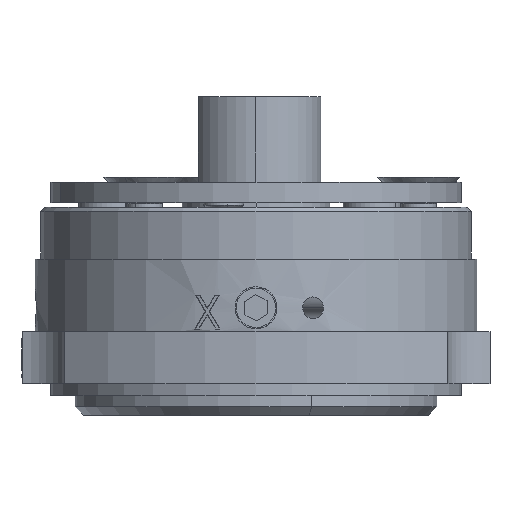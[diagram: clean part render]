
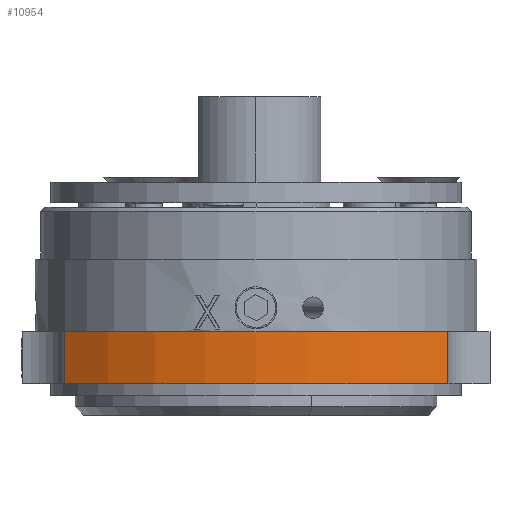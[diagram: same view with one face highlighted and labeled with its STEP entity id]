
A CAD part, front view. The second image highlights one B-rep face of the part: STEP entity #10954.
In plain terms, the highlighted cylindrical face has radius 19.05 mm (diameter 38.1 mm), a partial arc.
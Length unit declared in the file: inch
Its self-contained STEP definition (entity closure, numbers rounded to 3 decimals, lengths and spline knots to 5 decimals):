
#1399 = VERTEX_POINT ( 'NONE', #28066 ) ;
#1751 = DIRECTION ( 'NONE',  ( 0., 0., 1. ) ) ;
#1829 = ORIENTED_EDGE ( 'NONE', *, *, #8050, .F. ) ;
#4719 = ORIENTED_EDGE ( 'NONE', *, *, #31666, .F. ) ;
#4970 = VERTEX_POINT ( 'NONE', #31738 ) ;
#6599 = EDGE_CURVE ( 'NONE', #4970, #1399, #28316, .T. ) ;
#7147 = FACE_OUTER_BOUND ( 'NONE', #23463, .T. ) ;
#7438 = DIRECTION ( 'NONE',  ( 0., 0., -1. ) ) ;
#8050 = EDGE_CURVE ( 'NONE', #32158, #4970, #18378, .T. ) ;
#9006 = VERTEX_POINT ( 'NONE', #27922 ) ;
#9437 = EDGE_CURVE ( 'NONE', #32158, #9006, #32068, .T. ) ;
#10954 = ADVANCED_FACE ( 'NONE', ( #7147 ), #28191, .T. ) ;
#10973 = DIRECTION ( 'NONE',  ( 0., 0., -1. ) ) ;
#11085 = VECTOR ( 'NONE', #13059, 39.37008 ) ;
#13059 = DIRECTION ( 'NONE',  ( 0., 0., -1. ) ) ;
#15459 = CARTESIAN_POINT ( 'NONE',  ( -0.6192, -0.24593, 0.03982 ) ) ;
#18378 = LINE ( 'NONE', #34914, #11085 ) ;
#19738 = ORIENTED_EDGE ( 'NONE', *, *, #9437, .T. ) ;
#20150 = AXIS2_PLACEMENT_3D ( 'NONE', #23891, #7438, #26638 ) ;
#21097 = CARTESIAN_POINT ( 'NONE',  ( -1.0794, -0.83814, 0.11732 ) ) ;
#21157 = VECTOR ( 'NONE', #24104, 39.37008 ) ;
#23463 = EDGE_LOOP ( 'NONE', ( #4719, #25239, #1829, #19738 ) ) ;
#23682 = AXIS2_PLACEMENT_3D ( 'NONE', #15459, #1751, #34784 ) ;
#23891 = CARTESIAN_POINT ( 'NONE',  ( -0.6192, -0.24593, 0.06982 ) ) ;
#24104 = DIRECTION ( 'NONE',  ( 0., 0., 1. ) ) ;
#25239 = ORIENTED_EDGE ( 'NONE', *, *, #6599, .F. ) ;
#26638 = DIRECTION ( 'NONE',  ( -1., 0., 0. ) ) ;
#27405 = CARTESIAN_POINT ( 'NONE',  ( -0.6192, -0.24593, 0.19482 ) ) ;
#27922 = CARTESIAN_POINT ( 'NONE',  ( -1.0794, -0.83814, 0.19482 ) ) ;
#28066 = CARTESIAN_POINT ( 'NONE',  ( -1.0794, -0.83814, 0.06982 ) ) ;
#28191 = CYLINDRICAL_SURFACE ( 'NONE', #23682, 0.75 ) ;
#28316 = CIRCLE ( 'NONE', #20150, 0.75 ) ;
#28438 = LINE ( 'NONE', #21097, #21157 ) ;
#28591 = CARTESIAN_POINT ( 'NONE',  ( -0.15899, -0.83814, 0.19482 ) ) ;
#30192 = DIRECTION ( 'NONE',  ( 1., 0., 0. ) ) ;
#31666 = EDGE_CURVE ( 'NONE', #1399, #9006, #28438, .T. ) ;
#31738 = CARTESIAN_POINT ( 'NONE',  ( -0.15899, -0.83814, 0.06982 ) ) ;
#31952 = AXIS2_PLACEMENT_3D ( 'NONE', #27405, #10973, #30192 ) ;
#32068 = CIRCLE ( 'NONE', #31952, 0.75 ) ;
#32158 = VERTEX_POINT ( 'NONE', #28591 ) ;
#34784 = DIRECTION ( 'NONE',  ( 1., 0., 0. ) ) ;
#34914 = CARTESIAN_POINT ( 'NONE',  ( -0.15899, -0.83814, 0.11732 ) ) ;
